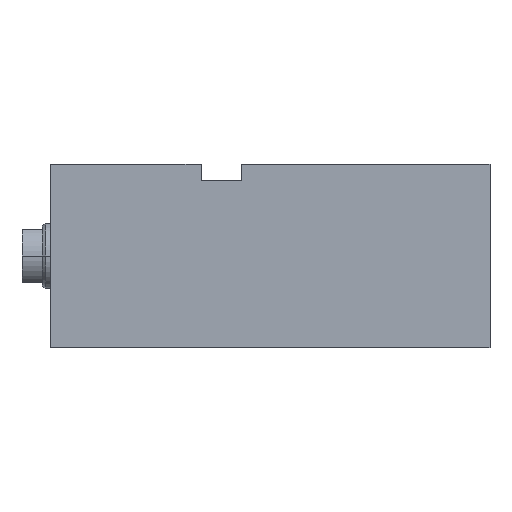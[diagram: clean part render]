
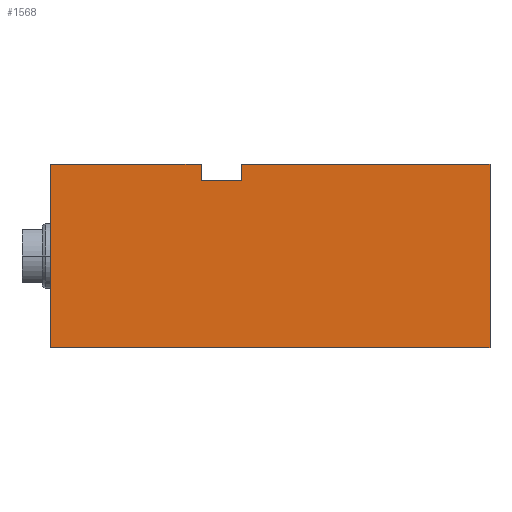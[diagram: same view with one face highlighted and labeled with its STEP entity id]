
A CAD part, left-side view. The second image highlights one B-rep face of the part: STEP entity #1568.
In plain terms, the highlighted planar face has unit normal (-1, 0, 0).
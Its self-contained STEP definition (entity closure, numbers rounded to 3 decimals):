
#46 = LINE ( 'NONE', #1959, #823 ) ;
#54 = CARTESIAN_POINT ( 'NONE',  ( -32.5, 58., 22.5 ) ) ;
#106 = ORIENTED_EDGE ( 'NONE', *, *, #1404, .F. ) ;
#146 = CARTESIAN_POINT ( 'NONE',  ( -32.5, 71., 18.5 ) ) ;
#147 = VECTOR ( 'NONE', #1552, 1000. ) ;
#280 = ORIENTED_EDGE ( 'NONE', *, *, #511, .F. ) ;
#281 = DIRECTION ( 'NONE',  ( 0., 0., 1. ) ) ;
#299 = VERTEX_POINT ( 'NONE', #1969 ) ;
#315 = CARTESIAN_POINT ( 'NONE',  ( -32.5, 108., 22.5 ) ) ;
#380 = EDGE_CURVE ( 'NONE', #1946, #839, #46, .T. ) ;
#386 = CARTESIAN_POINT ( 'NONE',  ( -32.5, 71., 18.5 ) ) ;
#392 = DIRECTION ( 'NONE',  ( 0., 0., 1. ) ) ;
#420 = CARTESIAN_POINT ( 'NONE',  ( -32.5, 0., 22.5 ) ) ;
#433 = EDGE_CURVE ( 'NONE', #1470, #2732, #2768, .T. ) ;
#466 = VERTEX_POINT ( 'NONE', #1062 ) ;
#511 = EDGE_CURVE ( 'NONE', #946, #1470, #1515, .T. ) ;
#582 = DIRECTION ( 'NONE',  ( 0., -1., 0. ) ) ;
#628 = LINE ( 'NONE', #2313, #147 ) ;
#645 = DIRECTION ( 'NONE',  ( 0., -1., 0. ) ) ;
#661 = CARTESIAN_POINT ( 'NONE',  ( -32.5, 0., -22.5 ) ) ;
#705 = DIRECTION ( 'NONE',  ( 0., 0., -1. ) ) ;
#723 = ORIENTED_EDGE ( 'NONE', *, *, #433, .F. ) ;
#823 = VECTOR ( 'NONE', #1249, 1000. ) ;
#839 = VERTEX_POINT ( 'NONE', #420 ) ;
#946 = VERTEX_POINT ( 'NONE', #2022 ) ;
#992 = VECTOR ( 'NONE', #2835, 1000. ) ;
#1004 = VECTOR ( 'NONE', #281, 1000. ) ;
#1038 = CARTESIAN_POINT ( 'NONE',  ( -32.5, 61., 22.5 ) ) ;
#1062 = CARTESIAN_POINT ( 'NONE',  ( -32.5, 61., 18.5 ) ) ;
#1095 = CARTESIAN_POINT ( 'NONE',  ( -32.5, 58., -22.5 ) ) ;
#1107 = DIRECTION ( 'NONE',  ( 0., 0., 1. ) ) ;
#1128 = ORIENTED_EDGE ( 'NONE', *, *, #1654, .T. ) ;
#1249 = DIRECTION ( 'NONE',  ( 0., -1., 0. ) ) ;
#1344 = VECTOR ( 'NONE', #392, 1000. ) ;
#1404 = EDGE_CURVE ( 'NONE', #466, #1946, #628, .T. ) ;
#1470 = VERTEX_POINT ( 'NONE', #315 ) ;
#1515 = LINE ( 'NONE', #2551, #1004 ) ;
#1524 = ORIENTED_EDGE ( 'NONE', *, *, #2201, .T. ) ;
#1552 = DIRECTION ( 'NONE',  ( 0., 0., 1. ) ) ;
#1568 = ADVANCED_FACE ( 'NONE', ( #2680 ), #3252, .F. ) ;
#1581 = VECTOR ( 'NONE', #645, 1000. ) ;
#1594 = CARTESIAN_POINT ( 'NONE',  ( -32.5, 0., -22.5 ) ) ;
#1654 = EDGE_CURVE ( 'NONE', #299, #2732, #2336, .T. ) ;
#1694 = LINE ( 'NONE', #1594, #1344 ) ;
#1857 = LINE ( 'NONE', #1095, #992 ) ;
#1909 = ORIENTED_EDGE ( 'NONE', *, *, #2682, .F. ) ;
#1946 = VERTEX_POINT ( 'NONE', #1038 ) ;
#1959 = CARTESIAN_POINT ( 'NONE',  ( -32.5, 58., 22.5 ) ) ;
#1969 = CARTESIAN_POINT ( 'NONE',  ( -32.5, 71., 18.5 ) ) ;
#2022 = CARTESIAN_POINT ( 'NONE',  ( -32.5, 108., -22.5 ) ) ;
#2128 = ORIENTED_EDGE ( 'NONE', *, *, #2237, .T. ) ;
#2193 = EDGE_LOOP ( 'NONE', ( #2986, #106, #1909, #1128, #723, #280, #1524, #2128 ) ) ;
#2201 = EDGE_CURVE ( 'NONE', #946, #3117, #1857, .T. ) ;
#2237 = EDGE_CURVE ( 'NONE', #3117, #839, #1694, .T. ) ;
#2250 = LINE ( 'NONE', #386, #1581 ) ;
#2313 = CARTESIAN_POINT ( 'NONE',  ( -32.5, 61., 18.5 ) ) ;
#2336 = LINE ( 'NONE', #146, #3139 ) ;
#2466 = DIRECTION ( 'NONE',  ( 1., 0., 0. ) ) ;
#2482 = CARTESIAN_POINT ( 'NONE',  ( -32.5, 58., -22.5 ) ) ;
#2524 = AXIS2_PLACEMENT_3D ( 'NONE', #2482, #2466, #705 ) ;
#2551 = CARTESIAN_POINT ( 'NONE',  ( -32.5, 108., -22.5 ) ) ;
#2653 = VECTOR ( 'NONE', #582, 1000. ) ;
#2680 = FACE_OUTER_BOUND ( 'NONE', #2193, .T. ) ;
#2682 = EDGE_CURVE ( 'NONE', #299, #466, #2250, .T. ) ;
#2732 = VERTEX_POINT ( 'NONE', #3166 ) ;
#2768 = LINE ( 'NONE', #54, #2653 ) ;
#2835 = DIRECTION ( 'NONE',  ( 0., -1., 0. ) ) ;
#2986 = ORIENTED_EDGE ( 'NONE', *, *, #380, .F. ) ;
#3117 = VERTEX_POINT ( 'NONE', #661 ) ;
#3139 = VECTOR ( 'NONE', #1107, 1000. ) ;
#3166 = CARTESIAN_POINT ( 'NONE',  ( -32.5, 71., 22.5 ) ) ;
#3252 = PLANE ( 'NONE',  #2524 ) ;
